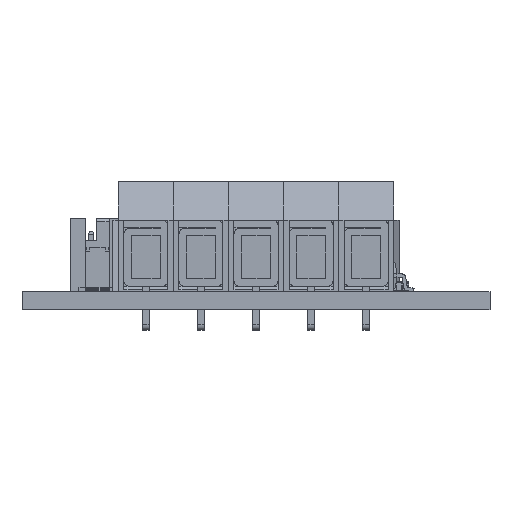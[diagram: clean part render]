
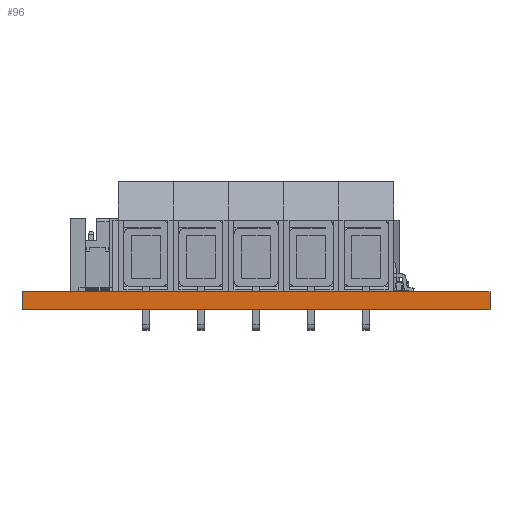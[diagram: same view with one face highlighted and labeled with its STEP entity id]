
A CAD part, front view. The second image highlights one B-rep face of the part: STEP entity #96.
In plain terms, the highlighted planar face has unit normal (0, -1, 0).
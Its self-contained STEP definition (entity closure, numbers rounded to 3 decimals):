
#96 = ADVANCED_FACE('',(#97),#131,.F.);
#97 = FACE_BOUND('',#98,.F.);
#98 = EDGE_LOOP('',(#99,#109,#117,#125));
#99 = ORIENTED_EDGE('',*,*,#100,.T.);
#100 = EDGE_CURVE('',#101,#103,#105,.T.);
#101 = VERTEX_POINT('',#102);
#102 = CARTESIAN_POINT('',(0.,0.,0.));
#103 = VERTEX_POINT('',#104);
#104 = CARTESIAN_POINT('',(0.,0.,1.646));
#105 = LINE('',#106,#107);
#106 = CARTESIAN_POINT('',(0.,0.,0.));
#107 = VECTOR('',#108,1.);
#108 = DIRECTION('',(0.,0.,1.));
#109 = ORIENTED_EDGE('',*,*,#110,.T.);
#110 = EDGE_CURVE('',#103,#111,#113,.T.);
#111 = VERTEX_POINT('',#112);
#112 = CARTESIAN_POINT('',(42.5,0.,1.646));
#113 = LINE('',#114,#115);
#114 = CARTESIAN_POINT('',(0.,0.,1.646));
#115 = VECTOR('',#116,1.);
#116 = DIRECTION('',(1.,0.,0.));
#117 = ORIENTED_EDGE('',*,*,#118,.F.);
#118 = EDGE_CURVE('',#119,#111,#121,.T.);
#119 = VERTEX_POINT('',#120);
#120 = CARTESIAN_POINT('',(42.5,0.,0.));
#121 = LINE('',#122,#123);
#122 = CARTESIAN_POINT('',(42.5,0.,0.));
#123 = VECTOR('',#124,1.);
#124 = DIRECTION('',(0.,0.,1.));
#125 = ORIENTED_EDGE('',*,*,#126,.F.);
#126 = EDGE_CURVE('',#101,#119,#127,.T.);
#127 = LINE('',#128,#129);
#128 = CARTESIAN_POINT('',(0.,0.,0.));
#129 = VECTOR('',#130,1.);
#130 = DIRECTION('',(1.,0.,0.));
#131 = PLANE('',#132);
#132 = AXIS2_PLACEMENT_3D('',#133,#134,#135);
#133 = CARTESIAN_POINT('',(0.,0.,0.));
#134 = DIRECTION('',(0.,1.,0.));
#135 = DIRECTION('',(1.,0.,0.));
